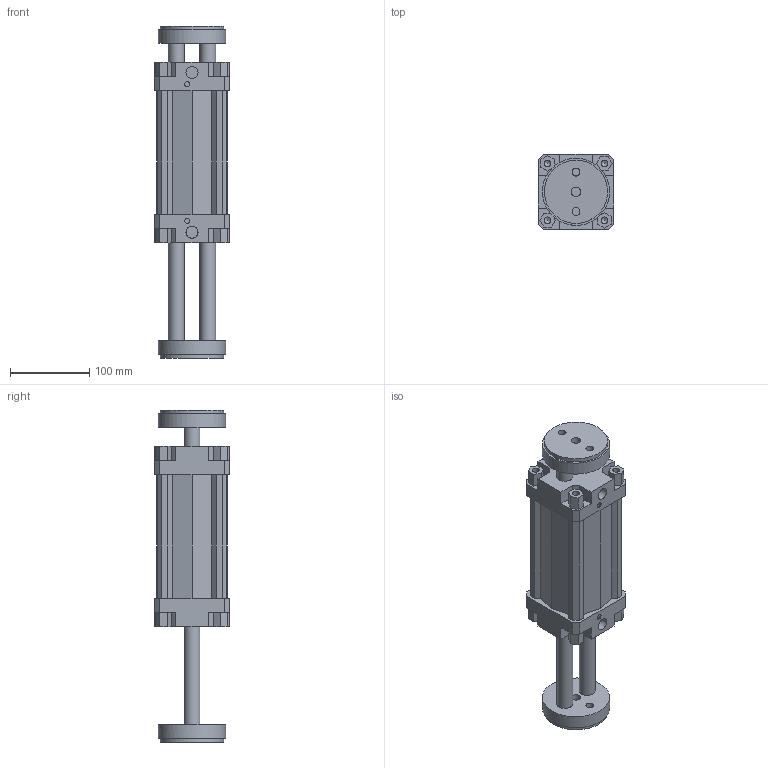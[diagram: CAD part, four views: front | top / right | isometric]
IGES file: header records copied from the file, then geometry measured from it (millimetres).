
Global section: file name: 132#_080_0100_06; native system: Autodesk Inventor 2014; preprocessor: unknown; author: A. Manieri; date: 20161006.162343; units: millimetre
Bounding box: 95 x 95 x 420 mm (x, y, z)
Volume: 1527228.6 mm3; surface area: 274893.3 mm2
Topology: 2 solids, 2 shells, 190 faces, 518 edges, 354 vertices
Faces by surface type: bspline 190
